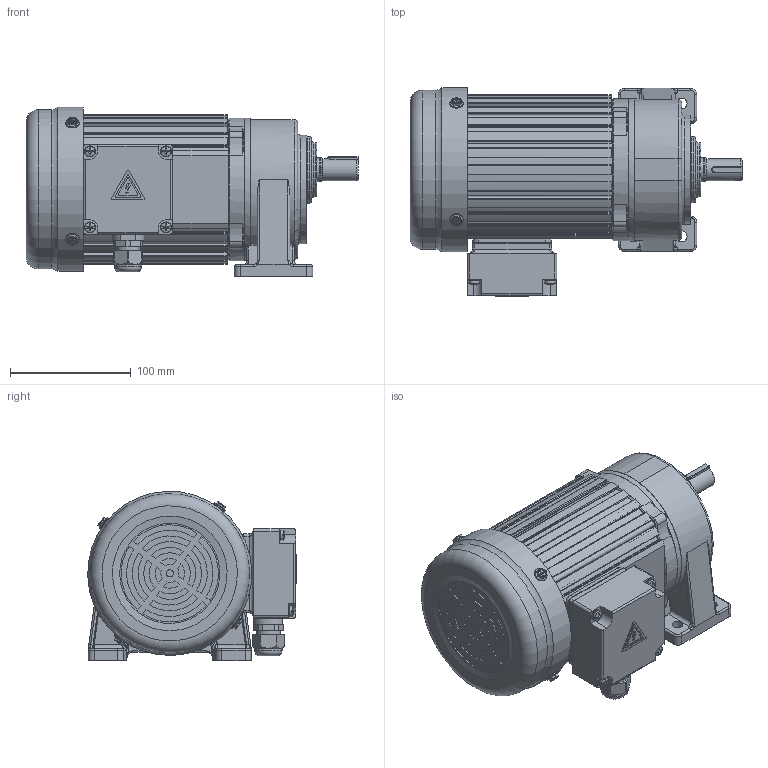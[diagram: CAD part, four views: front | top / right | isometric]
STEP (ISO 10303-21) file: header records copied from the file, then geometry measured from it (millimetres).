
FILE_DESCRIPTION(/* description */ (''),/* implementation_level */ '2;1');
FILE_NAME(/* name */ 'PST00001123_A0-小型交流减速电机-275_135_138.3-Φ18_50_K5-CH18-200-200S2-G1-LD.stp',/* time_stamp */ '2025-04-23T08:05:49+08:00',/* author */ (''),/* organization */ (''),/* preprocessor_version */ 'ST-DEVELOPER v18.102',/* originating_system */ 'SIEMENS PLM Software NX 2027',/* authorisation */ '');
FILE_SCHEMA (('AP203_CONFIGURATION_CONTROLLED_3D_DESIGN_OF_MECHANICAL_PARTS_AND_ASSEMBLIES_MIM_LF { 1 0 10303 403 2 1 2}'));
Length unit declared in the file: millimetre
Products named in the file (4): PST00000342_A0-接线盒组件; PST00001109_A0_W1834.0200.100-00-小型三相四极电机-
Φ110-200W-1.25m_8z-Y18-200S2-TG-C_MODEL; PST92000001_A0-小型减速箱-65_135_131.3-Φ1
8_50-K5-Φ110.5-1m45z-CH18-200B_T0; PST00001123_A0-小型交流减速电机-275_135_138.3
-Φ18_50_K5-CH18-200-200S2-G1-LD
Assembly tree (3 placements, depth 2):
  PST00001123_A0-小型交流减速电机-275_135_138.3
-Φ18_50_K5-CH18-200-200S2-G1-LD
    PST92000001_A0-小型减速箱-65_135_131.3-Φ1
8_50-K5-Φ110.5-1m45z-CH18-200B_T0
    PST00001109_A0_W1834.0200.100-00-小型三相四极电机-
Φ110-200W-1.25m_8z-Y18-200S2-TG-C_MODEL
    PST00000342_A0-接线盒组件
Bounding box: 275 x 172.69 x 140.24 mm (x, y, z)
Volume: 2907088.2 mm3; surface area: 309925.2 mm2
Topology: 7 solids, 7 shells, 2543 faces, 6403 edges, 3882 vertices
Faces by surface type: plane 1012, cylinder 714, torus 245, cone 241, bspline 237, sphere 70, revolution 24
Full cylindrical faces by diameter (mm): 3 x2, 4.2 x12, 4.336 x2, 4.6 x4, 4.826 x4, 5 x6, 5.795 x3, 6 x1, 6.2 x3, 6.4 x4, 8.5 x4, 9 x8, 10 x3, 11 x7, 13.98 x1, 14.5 x1, 17 x2, 17.6 x1, 18 x1, 20 x3, 21 x1, 22.5 x1, 35 x1, 45 x1, 50 x1, 55 x1, 90 x1, 110.5 x1, 118 x2, 132 x1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
Entity records: 81327 total; most frequent: CARTESIAN_POINT 22480, DIRECTION 12241, ORIENTED_EDGE 12208, EDGE_CURVE 6104, AXIS2_PLACEMENT_3D 4828, VERTEX_POINT 3821, EDGE_LOOP 2792, LINE 2561
